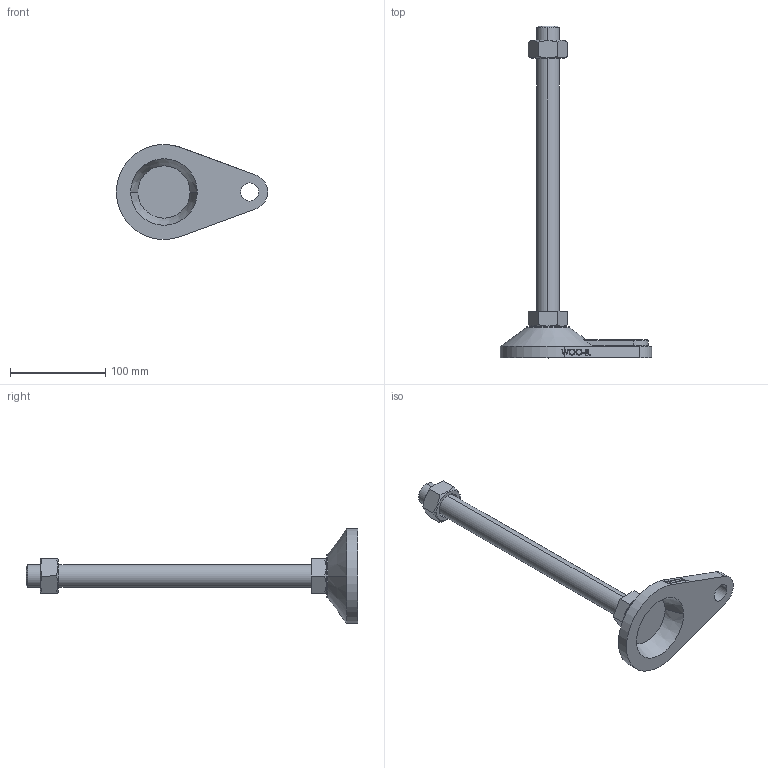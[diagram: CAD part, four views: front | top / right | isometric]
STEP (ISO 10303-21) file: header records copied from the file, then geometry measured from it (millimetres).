
FILE_DESCRIPTION (( 'STEP AP214' ), '1' );
FILE_NAME ('PAD-A100-M24-300.step', '2021-03-08T08:08:58', ( '' ), ( '' ), 'SwSTEP 2.0', 'SolidWorks 2019', '' );
FILE_SCHEMA (( 'AUTOMOTIVE_DESIGN' ));
Length unit declared in the file: millimetre
Products named in the file (2): PAD-A100-M24-300
Bounding box: 159 x 349 x 100 mm (x, y, z)
Volume: 332293.9 mm3; surface area: 64301 mm2
Topology: 3 solids, 3 shells, 112 faces, 271 edges, 174 vertices
Faces by surface type: plane 61, cylinder 17, cone 16, bspline 16, torus 2
Entity records: 4831 total; most frequent: CARTESIAN_POINT 2257, ORIENTED_EDGE 542, DIRECTION 462, EDGE_CURVE 271, VERTEX_POINT 174, LINE 156, VECTOR 156, AXIS2_PLACEMENT_3D 153
